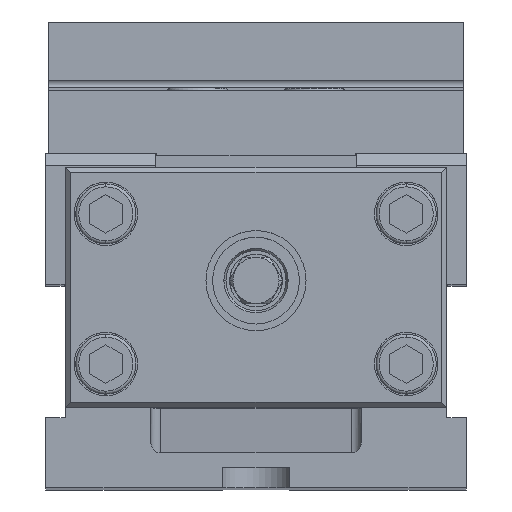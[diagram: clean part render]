
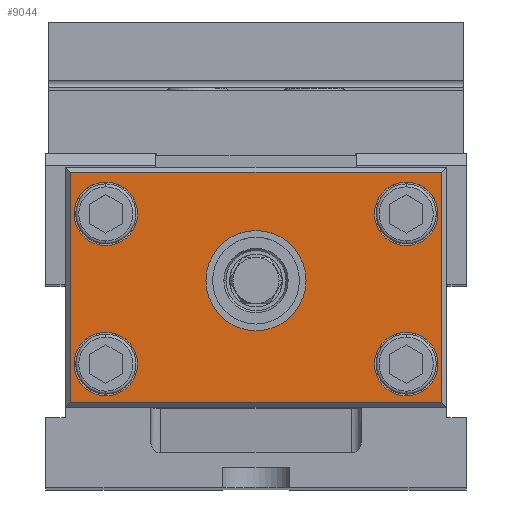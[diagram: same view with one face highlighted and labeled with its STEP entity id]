
A CAD part, top view. The second image highlights one B-rep face of the part: STEP entity #9044.
In plain terms, the highlighted planar face has unit normal (0, 0, 1) as drawn and (0, 0, -1) by its records, which use the part's own axes.
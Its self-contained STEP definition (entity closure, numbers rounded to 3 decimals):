
#7761=CARTESIAN_POINT('',(0.,2.,0.));
#7762=DIRECTION('',(0.,0.,-1.));
#7763=DIRECTION('',(-1.,0.,0.));
#7764=AXIS2_PLACEMENT_3D('',#7761,#7762,#7763);
#7766=CARTESIAN_POINT('',(0.,2.,0.));
#7767=DIRECTION('',(0.,0.,-1.));
#7768=DIRECTION('',(1.,0.,0.));
#7769=AXIS2_PLACEMENT_3D('',#7766,#7767,#7768);
#7791=CARTESIAN_POINT('',(45.,22.,0.));
#7792=DIRECTION('',(0.,0.,-1.));
#7793=DIRECTION('',(1.,0.,0.));
#7794=AXIS2_PLACEMENT_3D('',#7791,#7792,#7793);
#7796=CARTESIAN_POINT('',(45.,22.,0.));
#7797=DIRECTION('',(0.,0.,-1.));
#7798=DIRECTION('',(-1.,0.,0.));
#7799=AXIS2_PLACEMENT_3D('',#7796,#7797,#7798);
#7801=CARTESIAN_POINT('',(-45.,22.,0.));
#7802=DIRECTION('',(0.,0.,-1.));
#7803=DIRECTION('',(1.,0.,0.));
#7804=AXIS2_PLACEMENT_3D('',#7801,#7802,#7803);
#7806=CARTESIAN_POINT('',(-45.,22.,0.));
#7807=DIRECTION('',(0.,0.,-1.));
#7808=DIRECTION('',(-1.,0.,0.));
#7809=AXIS2_PLACEMENT_3D('',#7806,#7807,#7808);
#7811=CARTESIAN_POINT('',(-45.,-23.,0.));
#7812=DIRECTION('',(0.,0.,-1.));
#7813=DIRECTION('',(1.,0.,0.));
#7814=AXIS2_PLACEMENT_3D('',#7811,#7812,#7813);
#7816=CARTESIAN_POINT('',(-45.,-23.,0.));
#7817=DIRECTION('',(0.,0.,-1.));
#7818=DIRECTION('',(-1.,0.,0.));
#7819=AXIS2_PLACEMENT_3D('',#7816,#7817,#7818);
#7821=CARTESIAN_POINT('',(45.,-23.,0.));
#7822=DIRECTION('',(0.,0.,-1.));
#7823=DIRECTION('',(1.,0.,0.));
#7824=AXIS2_PLACEMENT_3D('',#7821,#7822,#7823);
#7826=CARTESIAN_POINT('',(45.,-23.,0.));
#7827=DIRECTION('',(0.,0.,-1.));
#7828=DIRECTION('',(-1.,0.,0.));
#7829=AXIS2_PLACEMENT_3D('',#7826,#7827,#7828);
#7831=DIRECTION('',(1.,0.,0.));
#7832=VECTOR('',#7831,111.);
#7833=CARTESIAN_POINT('',(-55.5,34.5,0.));
#7834=LINE('',#7833,#7832);
#7835=DIRECTION('',(0.,1.,0.));
#7836=VECTOR('',#7835,69.);
#7837=CARTESIAN_POINT('',(-55.5,-34.5,0.));
#7838=LINE('',#7837,#7836);
#7839=DIRECTION('',(-1.,0.,0.));
#7840=VECTOR('',#7839,111.);
#7841=CARTESIAN_POINT('',(55.5,-34.5,0.));
#7842=LINE('',#7841,#7840);
#7843=DIRECTION('',(0.,-1.,0.));
#7844=VECTOR('',#7843,69.);
#7845=CARTESIAN_POINT('',(55.5,34.5,0.));
#7846=LINE('',#7845,#7844);
#8799=CARTESIAN_POINT('',(-15.,2.,0.));
#8800=CARTESIAN_POINT('',(15.,2.,0.));
#8801=VERTEX_POINT('',#8799);
#8802=VERTEX_POINT('',#8800);
#8933=CARTESIAN_POINT('',(54.5,22.,0.));
#8934=CARTESIAN_POINT('',(35.5,22.,0.));
#8935=VERTEX_POINT('',#8933);
#8936=VERTEX_POINT('',#8934);
#8941=CARTESIAN_POINT('',(-35.5,22.,0.));
#8942=CARTESIAN_POINT('',(-54.5,22.,0.));
#8943=VERTEX_POINT('',#8941);
#8944=VERTEX_POINT('',#8942);
#8949=CARTESIAN_POINT('',(-35.5,-23.,0.));
#8950=CARTESIAN_POINT('',(-54.5,-23.,0.));
#8951=VERTEX_POINT('',#8949);
#8952=VERTEX_POINT('',#8950);
#8957=CARTESIAN_POINT('',(54.5,-23.,0.));
#8958=CARTESIAN_POINT('',(35.5,-23.,0.));
#8959=VERTEX_POINT('',#8957);
#8960=VERTEX_POINT('',#8958);
#8965=CARTESIAN_POINT('',(-55.5,34.5,0.));
#8966=CARTESIAN_POINT('',(55.5,34.5,0.));
#8967=VERTEX_POINT('',#8965);
#8968=VERTEX_POINT('',#8966);
#8975=CARTESIAN_POINT('',(-55.5,-34.5,0.));
#8976=VERTEX_POINT('',#8975);
#8979=CARTESIAN_POINT('',(55.5,-34.5,0.));
#8980=VERTEX_POINT('',#8979);
#8999=CARTESIAN_POINT('',(0.,0.,0.));
#9000=DIRECTION('',(0.,0.,1.));
#9001=DIRECTION('',(1.,0.,0.));
#9002=AXIS2_PLACEMENT_3D('',#8999,#9000,#9001);
#9003=PLANE('',#9002);
#9005=ORIENTED_EDGE('',*,*,#9004,.F.);
#9007=ORIENTED_EDGE('',*,*,#9006,.F.);
#9009=ORIENTED_EDGE('',*,*,#9008,.F.);
#9011=ORIENTED_EDGE('',*,*,#9010,.F.);
#9012=EDGE_LOOP('',(#9005,#9007,#9009,#9011));
#9013=FACE_OUTER_BOUND('',#9012,.F.);
#9015=ORIENTED_EDGE('',*,*,#9014,.T.);
#9017=ORIENTED_EDGE('',*,*,#9016,.T.);
#9018=EDGE_LOOP('',(#9015,#9017));
#9019=FACE_BOUND('',#9018,.F.);
#9021=ORIENTED_EDGE('',*,*,#9020,.T.);
#9023=ORIENTED_EDGE('',*,*,#9022,.T.);
#9024=EDGE_LOOP('',(#9021,#9023));
#9025=FACE_BOUND('',#9024,.F.);
#9027=ORIENTED_EDGE('',*,*,#9026,.T.);
#9029=ORIENTED_EDGE('',*,*,#9028,.T.);
#9030=EDGE_LOOP('',(#9027,#9029));
#9031=FACE_BOUND('',#9030,.F.);
#9033=ORIENTED_EDGE('',*,*,#9032,.T.);
#9035=ORIENTED_EDGE('',*,*,#9034,.T.);
#9036=EDGE_LOOP('',(#9033,#9035));
#9037=FACE_BOUND('',#9036,.F.);
#9039=ORIENTED_EDGE('',*,*,#9038,.T.);
#9041=ORIENTED_EDGE('',*,*,#9040,.T.);
#9042=EDGE_LOOP('',(#9039,#9041));
#9043=FACE_BOUND('',#9042,.F.);
#9044=ADVANCED_FACE('',(#9013,#9019,#9025,#9031,#9037,#9043),#9003,.F.);
#7765=CIRCLE('',#7764,15.);
#7770=CIRCLE('',#7769,15.);
#7795=CIRCLE('',#7794,9.5);
#7800=CIRCLE('',#7799,9.5);
#7805=CIRCLE('',#7804,9.5);
#7810=CIRCLE('',#7809,9.5);
#7815=CIRCLE('',#7814,9.5);
#7820=CIRCLE('',#7819,9.5);
#7825=CIRCLE('',#7824,9.5);
#7830=CIRCLE('',#7829,9.5);
#9004=EDGE_CURVE('',#8967,#8968,#7834,.T.);
#9006=EDGE_CURVE('',#8976,#8967,#7838,.T.);
#9008=EDGE_CURVE('',#8980,#8976,#7842,.T.);
#9010=EDGE_CURVE('',#8968,#8980,#7846,.T.);
#9014=EDGE_CURVE('',#8801,#8802,#7765,.T.);
#9016=EDGE_CURVE('',#8802,#8801,#7770,.T.);
#9020=EDGE_CURVE('',#8935,#8936,#7795,.T.);
#9022=EDGE_CURVE('',#8936,#8935,#7800,.T.);
#9026=EDGE_CURVE('',#8943,#8944,#7805,.T.);
#9028=EDGE_CURVE('',#8944,#8943,#7810,.T.);
#9032=EDGE_CURVE('',#8951,#8952,#7815,.T.);
#9034=EDGE_CURVE('',#8952,#8951,#7820,.T.);
#9038=EDGE_CURVE('',#8959,#8960,#7825,.T.);
#9040=EDGE_CURVE('',#8960,#8959,#7830,.T.);
